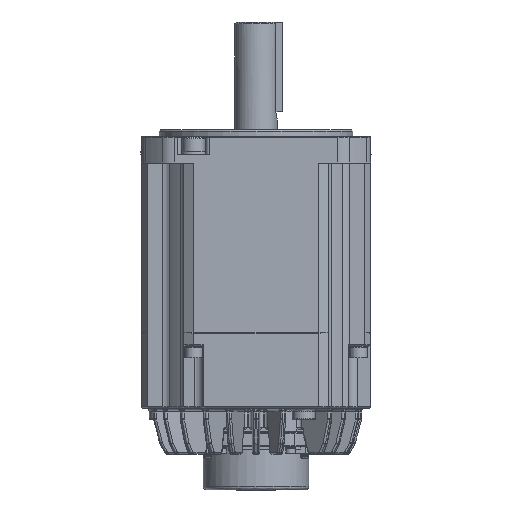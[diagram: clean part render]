
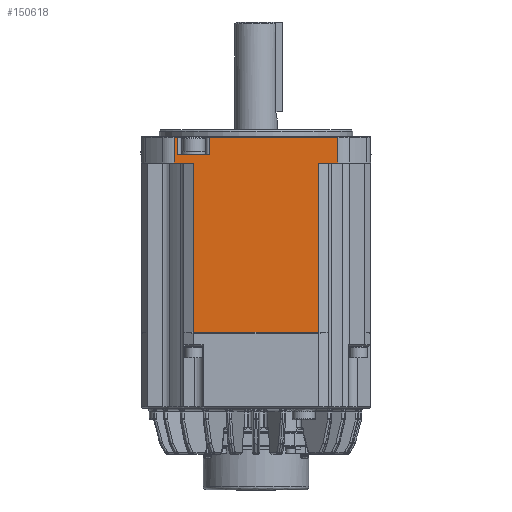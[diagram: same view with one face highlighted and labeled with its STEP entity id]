
A CAD part, front view. The second image highlights one B-rep face of the part: STEP entity #150618.
In plain terms, the highlighted planar face has unit normal (0, -1, 0).
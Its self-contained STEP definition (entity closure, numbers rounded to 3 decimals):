
#433 = LINE ( 'NONE', #85889, #91239 ) ;
#657 = DIRECTION ( 'NONE',  ( 1., 0., 0. ) ) ;
#3492 = LINE ( 'NONE', #143116, #149778 ) ;
#3669 = VECTOR ( 'NONE', #129099, 1000. ) ;
#3704 = DIRECTION ( 'NONE',  ( -1., 0., 0. ) ) ;
#4066 = LINE ( 'NONE', #137053, #98594 ) ;
#4572 = DIRECTION ( 'NONE',  ( 0., 0., -1. ) ) ;
#4754 = CARTESIAN_POINT ( 'NONE',  ( 61.334, -63.976, 302.452 ) ) ;
#6647 = LINE ( 'NONE', #113264, #65976 ) ;
#8601 = VECTOR ( 'NONE', #64126, 1000. ) ;
#11643 = EDGE_CURVE ( 'NONE', #57125, #97802, #91592, .T. ) ;
#12535 = CARTESIAN_POINT ( 'NONE',  ( 25.833, -63.976, 191.752 ) ) ;
#13525 = EDGE_CURVE ( 'NONE', #73412, #107166, #19233, .T. ) ;
#14379 = VERTEX_POINT ( 'NONE', #20818 ) ;
#15506 = VECTOR ( 'NONE', #107177, 1000. ) ;
#16031 = LINE ( 'NONE', #99342, #8601 ) ;
#16666 = DIRECTION ( 'NONE',  ( -1., 0., 0. ) ) ;
#18378 = ORIENTED_EDGE ( 'NONE', *, *, #11643, .T. ) ;
#19233 = LINE ( 'NONE', #48220, #15506 ) ;
#20454 = ORIENTED_EDGE ( 'NONE', *, *, #83045, .T. ) ;
#20684 = LINE ( 'NONE', #86599, #111410 ) ;
#20818 = CARTESIAN_POINT ( 'NONE',  ( 72.298, -63.976, 302.452 ) ) ;
#22050 = VECTOR ( 'NONE', #657, 1000. ) ;
#22348 = VERTEX_POINT ( 'NONE', #116789 ) ;
#23866 = ORIENTED_EDGE ( 'NONE', *, *, #65768, .T. ) ;
#24416 = EDGE_CURVE ( 'NONE', #151014, #113774, #98582, .T. ) ;
#24664 = EDGE_CURVE ( 'NONE', #133352, #121045, #44835, .T. ) ;
#25998 = DIRECTION ( 'NONE',  ( 1., 0., 0. ) ) ;
#26713 = CARTESIAN_POINT ( 'NONE',  ( 61.334, -63.976, 287.752 ) ) ;
#27693 = ORIENTED_EDGE ( 'NONE', *, *, #49494, .T. ) ;
#28440 = VECTOR ( 'NONE', #25998, 1000. ) ;
#29161 = ORIENTED_EDGE ( 'NONE', *, *, #53593, .T. ) ;
#35239 = LINE ( 'NONE', #81561, #3669 ) ;
#37927 = CARTESIAN_POINT ( 'NONE',  ( 61.334, -63.976, 191.752 ) ) ;
#39635 = LINE ( 'NONE', #128999, #71109 ) ;
#39676 = EDGE_CURVE ( 'NONE', #14379, #151014, #124580, .T. ) ;
#41410 = VERTEX_POINT ( 'NONE', #26713 ) ;
#43974 = VERTEX_POINT ( 'NONE', #152469 ) ;
#44034 = ORIENTED_EDGE ( 'NONE', *, *, #39676, .T. ) ;
#44835 = LINE ( 'NONE', #69263, #107765 ) ;
#45632 = AXIS2_PLACEMENT_3D ( 'NONE', #106381, #118224, #47419 ) ;
#45864 = CARTESIAN_POINT ( 'NONE',  ( -11.456, -63.976, 292.752 ) ) ;
#46185 = CARTESIAN_POINT ( 'NONE',  ( 61.334, -63.976, 191.752 ) ) ;
#46276 = DIRECTION ( 'NONE',  ( 0., 0., -1. ) ) ;
#47419 = DIRECTION ( 'NONE',  ( 0., 0., -1. ) ) ;
#48090 = CARTESIAN_POINT ( 'NONE',  ( -18.667, -63.976, 302.452 ) ) ;
#48220 = CARTESIAN_POINT ( 'NONE',  ( 61.334, -63.976, 191.752 ) ) ;
#49494 = EDGE_CURVE ( 'NONE', #97802, #61307, #4066, .T. ) ;
#50102 = ORIENTED_EDGE ( 'NONE', *, *, #59468, .T. ) ;
#53454 = ORIENTED_EDGE ( 'NONE', *, *, #59648, .T. ) ;
#53593 = EDGE_CURVE ( 'NONE', #41410, #43974, #35239, .T. ) ;
#54931 = VERTEX_POINT ( 'NONE', #136900 ) ;
#57007 = ORIENTED_EDGE ( 'NONE', *, *, #83592, .T. ) ;
#57125 = VERTEX_POINT ( 'NONE', #73128 ) ;
#57972 = VECTOR ( 'NONE', #16666, 1000. ) ;
#59468 = EDGE_CURVE ( 'NONE', #22348, #54931, #39635, .T. ) ;
#59648 = EDGE_CURVE ( 'NONE', #54931, #73412, #95160, .T. ) ;
#61307 = VERTEX_POINT ( 'NONE', #152271 ) ;
#62035 = DIRECTION ( 'NONE',  ( 0., 0., 1. ) ) ;
#64126 = DIRECTION ( 'NONE',  ( 0., 0., -1. ) ) ;
#65768 = EDGE_CURVE ( 'NONE', #107166, #41410, #3492, .T. ) ;
#65976 = VECTOR ( 'NONE', #125165, 1000. ) ;
#69263 = CARTESIAN_POINT ( 'NONE',  ( 61.334, -63.976, 292.752 ) ) ;
#71109 = VECTOR ( 'NONE', #46276, 1000. ) ;
#72026 = CARTESIAN_POINT ( 'NONE',  ( -0.667, -63.976, 302.452 ) ) ;
#73128 = CARTESIAN_POINT ( 'NONE',  ( -18.667, -63.976, 292.752 ) ) ;
#73412 = VERTEX_POINT ( 'NONE', #12535 ) ;
#76523 = DIRECTION ( 'NONE',  ( -1., 0., 0. ) ) ;
#81561 = CARTESIAN_POINT ( 'NONE',  ( 61.334, -63.976, 287.752 ) ) ;
#83045 = EDGE_CURVE ( 'NONE', #61307, #152246, #16031, .T. ) ;
#83592 = EDGE_CURVE ( 'NONE', #43974, #14379, #6647, .T. ) ;
#85889 = CARTESIAN_POINT ( 'NONE',  ( 61.334, -63.976, 292.752 ) ) ;
#86599 = CARTESIAN_POINT ( 'NONE',  ( 61.334, -63.976, 292.752 ) ) ;
#91239 = VECTOR ( 'NONE', #97796, 1000. ) ;
#91592 = LINE ( 'NONE', #132915, #126670 ) ;
#92829 = CARTESIAN_POINT ( 'NONE',  ( -20.632, -63.976, 287.752 ) ) ;
#95160 = LINE ( 'NONE', #37927, #28440 ) ;
#96387 = EDGE_LOOP ( 'NONE', ( #20454, #151940, #50102, #53454, #150440, #23866, #29161, #57007, #44034, #146024, #96501, #114270, #125049, #18378, #27693 ) ) ;
#96501 = ORIENTED_EDGE ( 'NONE', *, *, #124080, .T. ) ;
#97796 = DIRECTION ( 'NONE',  ( -1., 0., 0. ) ) ;
#97802 = VERTEX_POINT ( 'NONE', #48090 ) ;
#98582 = LINE ( 'NONE', #109670, #122552 ) ;
#98594 = VECTOR ( 'NONE', #76523, 1000. ) ;
#99342 = CARTESIAN_POINT ( 'NONE',  ( -20.632, -63.976, 191.752 ) ) ;
#105242 = CARTESIAN_POINT ( 'NONE',  ( -7.878, -63.976, 292.752 ) ) ;
#106381 = CARTESIAN_POINT ( 'NONE',  ( 61.334, -63.976, 191.752 ) ) ;
#106771 = CARTESIAN_POINT ( 'NONE',  ( 61.334, -63.976, 287.752 ) ) ;
#107166 = VERTEX_POINT ( 'NONE', #46185 ) ;
#107177 = DIRECTION ( 'NONE',  ( 1., 0., 0. ) ) ;
#107765 = VECTOR ( 'NONE', #151982, 1000. ) ;
#107918 = DIRECTION ( 'NONE',  ( 0., 0., 1. ) ) ;
#108872 = FACE_OUTER_BOUND ( 'NONE', #96387, .T. ) ;
#109670 = CARTESIAN_POINT ( 'NONE',  ( -0.667, -63.976, 191.752 ) ) ;
#111410 = VECTOR ( 'NONE', #3704, 1000. ) ;
#113264 = CARTESIAN_POINT ( 'NONE',  ( 72.298, -63.976, 191.752 ) ) ;
#113774 = VERTEX_POINT ( 'NONE', #151834 ) ;
#114270 = ORIENTED_EDGE ( 'NONE', *, *, #24664, .T. ) ;
#116429 = LINE ( 'NONE', #106771, #22050 ) ;
#116789 = CARTESIAN_POINT ( 'NONE',  ( -9.667, -63.976, 287.752 ) ) ;
#118224 = DIRECTION ( 'NONE',  ( 0., -1., 0. ) ) ;
#121045 = VERTEX_POINT ( 'NONE', #45864 ) ;
#122552 = VECTOR ( 'NONE', #4572, 1000. ) ;
#124080 = EDGE_CURVE ( 'NONE', #113774, #133352, #20684, .T. ) ;
#124580 = LINE ( 'NONE', #4754, #57972 ) ;
#125049 = ORIENTED_EDGE ( 'NONE', *, *, #144978, .T. ) ;
#125165 = DIRECTION ( 'NONE',  ( 0., 0., 1. ) ) ;
#126670 = VECTOR ( 'NONE', #62035, 1000. ) ;
#127126 = EDGE_CURVE ( 'NONE', #152246, #22348, #116429, .T. ) ;
#128999 = CARTESIAN_POINT ( 'NONE',  ( -9.667, -63.976, 191.752 ) ) ;
#129099 = DIRECTION ( 'NONE',  ( 1., 0., 0. ) ) ;
#129628 = PLANE ( 'NONE',  #45632 ) ;
#132915 = CARTESIAN_POINT ( 'NONE',  ( -18.667, -63.976, 191.752 ) ) ;
#133352 = VERTEX_POINT ( 'NONE', #105242 ) ;
#136900 = CARTESIAN_POINT ( 'NONE',  ( -9.667, -63.976, 191.752 ) ) ;
#137053 = CARTESIAN_POINT ( 'NONE',  ( 61.334, -63.976, 302.452 ) ) ;
#143116 = CARTESIAN_POINT ( 'NONE',  ( 61.334, -63.976, 191.752 ) ) ;
#144978 = EDGE_CURVE ( 'NONE', #121045, #57125, #433, .T. ) ;
#146024 = ORIENTED_EDGE ( 'NONE', *, *, #24416, .T. ) ;
#149778 = VECTOR ( 'NONE', #107918, 1000. ) ;
#150440 = ORIENTED_EDGE ( 'NONE', *, *, #13525, .T. ) ;
#150618 = ADVANCED_FACE ( 'NONE', ( #108872 ), #129628, .T. ) ;
#151014 = VERTEX_POINT ( 'NONE', #72026 ) ;
#151834 = CARTESIAN_POINT ( 'NONE',  ( -0.667, -63.976, 292.752 ) ) ;
#151940 = ORIENTED_EDGE ( 'NONE', *, *, #127126, .T. ) ;
#151982 = DIRECTION ( 'NONE',  ( -1., 0., 0. ) ) ;
#152246 = VERTEX_POINT ( 'NONE', #92829 ) ;
#152271 = CARTESIAN_POINT ( 'NONE',  ( -20.632, -63.976, 302.452 ) ) ;
#152469 = CARTESIAN_POINT ( 'NONE',  ( 72.298, -63.976, 287.752 ) ) ;
